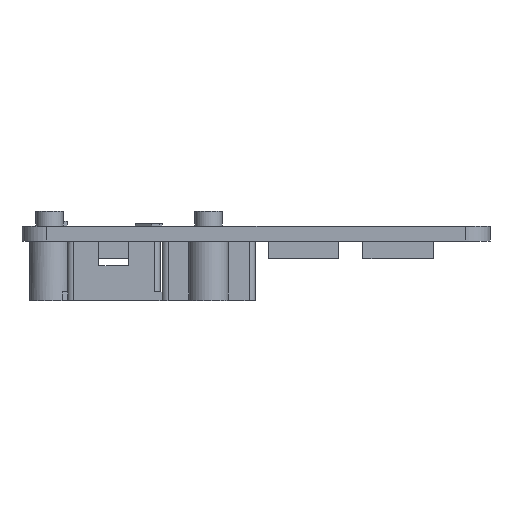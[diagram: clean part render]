
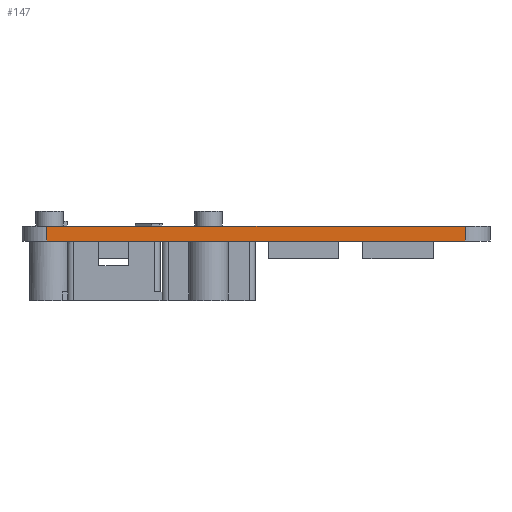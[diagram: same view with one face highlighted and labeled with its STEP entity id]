
A CAD part, left-side view. The second image highlights one B-rep face of the part: STEP entity #147.
In plain terms, the highlighted planar face has unit normal (-1, 0, 0).
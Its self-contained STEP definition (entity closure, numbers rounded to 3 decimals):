
#147 = ADVANCED_FACE('',(#148),#162,.F.);
#148 = FACE_BOUND('',#149,.F.);
#149 = EDGE_LOOP('',(#150,#185,#213,#241));
#150 = ORIENTED_EDGE('',*,*,#151,.F.);
#151 = EDGE_CURVE('',#152,#154,#156,.T.);
#152 = VERTEX_POINT('',#153);
#153 = CARTESIAN_POINT('',(-47.,-42.,25.));
#154 = VERTEX_POINT('',#155);
#155 = CARTESIAN_POINT('',(-47.,42.,25.));
#156 = SURFACE_CURVE('',#157,(#161,#173),.PCURVE_S1.);
#157 = LINE('',#158,#159);
#158 = CARTESIAN_POINT('',(-47.,-47.,25.));
#159 = VECTOR('',#160,1.);
#160 = DIRECTION('',(0.,1.,0.));
#161 = PCURVE('',#162,#167);
#162 = PLANE('',#163);
#163 = AXIS2_PLACEMENT_3D('',#164,#165,#166);
#164 = CARTESIAN_POINT('',(-47.,-47.,22.));
#165 = DIRECTION('',(1.,0.,0.));
#166 = DIRECTION('',(0.,0.,1.));
#167 = DEFINITIONAL_REPRESENTATION('',(#168),#172);
#168 = LINE('',#169,#170);
#169 = CARTESIAN_POINT('',(3.,0.));
#170 = VECTOR('',#171,1.);
#171 = DIRECTION('',(0.,-1.));
#172 = ( GEOMETRIC_REPRESENTATION_CONTEXT(2) 
PARAMETRIC_REPRESENTATION_CONTEXT() REPRESENTATION_CONTEXT('2D SPACE',''
  ) );
#173 = PCURVE('',#174,#179);
#174 = PLANE('',#175);
#175 = AXIS2_PLACEMENT_3D('',#176,#177,#178);
#176 = CARTESIAN_POINT('',(-47.,-47.,25.));
#177 = DIRECTION('',(0.,0.,1.));
#178 = DIRECTION('',(1.,0.,-0.));
#179 = DEFINITIONAL_REPRESENTATION('',(#180),#184);
#180 = LINE('',#181,#182);
#181 = CARTESIAN_POINT('',(0.,0.));
#182 = VECTOR('',#183,1.);
#183 = DIRECTION('',(0.,1.));
#184 = ( GEOMETRIC_REPRESENTATION_CONTEXT(2) 
PARAMETRIC_REPRESENTATION_CONTEXT() REPRESENTATION_CONTEXT('2D SPACE',''
  ) );
#185 = ORIENTED_EDGE('',*,*,#186,.F.);
#186 = EDGE_CURVE('',#187,#152,#189,.T.);
#187 = VERTEX_POINT('',#188);
#188 = CARTESIAN_POINT('',(-47.,-42.,22.));
#189 = SURFACE_CURVE('',#190,(#194,#201),.PCURVE_S1.);
#190 = LINE('',#191,#192);
#191 = CARTESIAN_POINT('',(-47.,-42.,22.));
#192 = VECTOR('',#193,1.);
#193 = DIRECTION('',(0.,0.,1.));
#194 = PCURVE('',#162,#195);
#195 = DEFINITIONAL_REPRESENTATION('',(#196),#200);
#196 = LINE('',#197,#198);
#197 = CARTESIAN_POINT('',(0.,-5.));
#198 = VECTOR('',#199,1.);
#199 = DIRECTION('',(1.,0.));
#200 = ( GEOMETRIC_REPRESENTATION_CONTEXT(2) 
PARAMETRIC_REPRESENTATION_CONTEXT() REPRESENTATION_CONTEXT('2D SPACE',''
  ) );
#201 = PCURVE('',#202,#207);
#202 = CYLINDRICAL_SURFACE('',#203,5.);
#203 = AXIS2_PLACEMENT_3D('',#204,#205,#206);
#204 = CARTESIAN_POINT('',(-42.,-42.,22.));
#205 = DIRECTION('',(0.,0.,1.));
#206 = DIRECTION('',(-1.,-0.,0.));
#207 = DEFINITIONAL_REPRESENTATION('',(#208),#212);
#208 = LINE('',#209,#210);
#209 = CARTESIAN_POINT('',(0.,0.));
#210 = VECTOR('',#211,1.);
#211 = DIRECTION('',(0.,1.));
#212 = ( GEOMETRIC_REPRESENTATION_CONTEXT(2) 
PARAMETRIC_REPRESENTATION_CONTEXT() REPRESENTATION_CONTEXT('2D SPACE',''
  ) );
#213 = ORIENTED_EDGE('',*,*,#214,.T.);
#214 = EDGE_CURVE('',#187,#215,#217,.T.);
#215 = VERTEX_POINT('',#216);
#216 = CARTESIAN_POINT('',(-47.,42.,22.));
#217 = SURFACE_CURVE('',#218,(#222,#229),.PCURVE_S1.);
#218 = LINE('',#219,#220);
#219 = CARTESIAN_POINT('',(-47.,-47.,22.));
#220 = VECTOR('',#221,1.);
#221 = DIRECTION('',(0.,1.,0.));
#222 = PCURVE('',#162,#223);
#223 = DEFINITIONAL_REPRESENTATION('',(#224),#228);
#224 = LINE('',#225,#226);
#225 = CARTESIAN_POINT('',(0.,0.));
#226 = VECTOR('',#227,1.);
#227 = DIRECTION('',(0.,-1.));
#228 = ( GEOMETRIC_REPRESENTATION_CONTEXT(2) 
PARAMETRIC_REPRESENTATION_CONTEXT() REPRESENTATION_CONTEXT('2D SPACE',''
  ) );
#229 = PCURVE('',#230,#235);
#230 = PLANE('',#231);
#231 = AXIS2_PLACEMENT_3D('',#232,#233,#234);
#232 = CARTESIAN_POINT('',(-47.,-47.,22.));
#233 = DIRECTION('',(0.,0.,1.));
#234 = DIRECTION('',(1.,0.,-0.));
#235 = DEFINITIONAL_REPRESENTATION('',(#236),#240);
#236 = LINE('',#237,#238);
#237 = CARTESIAN_POINT('',(0.,0.));
#238 = VECTOR('',#239,1.);
#239 = DIRECTION('',(0.,1.));
#240 = ( GEOMETRIC_REPRESENTATION_CONTEXT(2) 
PARAMETRIC_REPRESENTATION_CONTEXT() REPRESENTATION_CONTEXT('2D SPACE',''
  ) );
#241 = ORIENTED_EDGE('',*,*,#242,.T.);
#242 = EDGE_CURVE('',#215,#154,#243,.T.);
#243 = SURFACE_CURVE('',#244,(#248,#255),.PCURVE_S1.);
#244 = LINE('',#245,#246);
#245 = CARTESIAN_POINT('',(-47.,42.,22.));
#246 = VECTOR('',#247,1.);
#247 = DIRECTION('',(0.,0.,1.));
#248 = PCURVE('',#162,#249);
#249 = DEFINITIONAL_REPRESENTATION('',(#250),#254);
#250 = LINE('',#251,#252);
#251 = CARTESIAN_POINT('',(0.,-89.));
#252 = VECTOR('',#253,1.);
#253 = DIRECTION('',(1.,0.));
#254 = ( GEOMETRIC_REPRESENTATION_CONTEXT(2) 
PARAMETRIC_REPRESENTATION_CONTEXT() REPRESENTATION_CONTEXT('2D SPACE',''
  ) );
#255 = PCURVE('',#256,#261);
#256 = CYLINDRICAL_SURFACE('',#257,5.);
#257 = AXIS2_PLACEMENT_3D('',#258,#259,#260);
#258 = CARTESIAN_POINT('',(-42.,42.,22.));
#259 = DIRECTION('',(0.,0.,1.));
#260 = DIRECTION('',(-1.,-0.,0.));
#261 = DEFINITIONAL_REPRESENTATION('',(#262),#266);
#262 = LINE('',#263,#264);
#263 = CARTESIAN_POINT('',(6.283,0.));
#264 = VECTOR('',#265,1.);
#265 = DIRECTION('',(-0.,1.));
#266 = ( GEOMETRIC_REPRESENTATION_CONTEXT(2) 
PARAMETRIC_REPRESENTATION_CONTEXT() REPRESENTATION_CONTEXT('2D SPACE',''
  ) );
